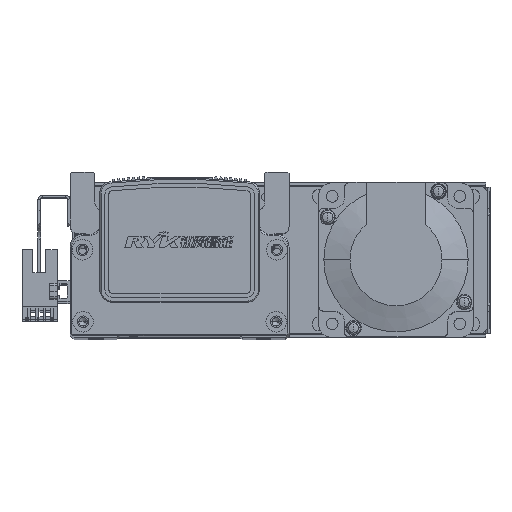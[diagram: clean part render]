
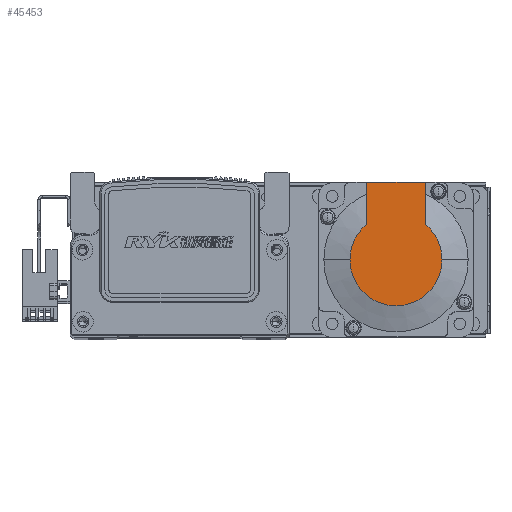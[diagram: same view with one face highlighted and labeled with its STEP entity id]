
A CAD part, top view. The second image highlights one B-rep face of the part: STEP entity #45453.
In plain terms, the highlighted planar face has unit normal (0, 0, 1) as drawn and (-1, 0, 0) by its records, which use the part's own axes.
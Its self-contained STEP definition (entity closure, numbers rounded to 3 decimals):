
#3661 = AXIS2_PLACEMENT_3D ( 'NONE', #10117, #10133, #10142 ) ;
#8740 = CARTESIAN_POINT ( 'NONE',  ( -99., 0., 0. ) ) ;
#8761 = DIRECTION ( 'NONE',  ( -1., 0., 0. ) ) ;
#8770 = DIRECTION ( 'NONE',  ( 0., 0., -1. ) ) ;
#8821 = DIRECTION ( 'NONE',  ( -1., 0., 0. ) ) ;
#8823 = CARTESIAN_POINT ( 'NONE',  ( -99., 0., 0. ) ) ;
#8842 = DIRECTION ( 'NONE',  ( 0., 0., -1. ) ) ;
#10114 = PLANE ( 'NONE',  #3661 ) ;
#10117 = CARTESIAN_POINT ( 'NONE',  ( -99., -8.941, 0. ) ) ;
#10133 = DIRECTION ( 'NONE',  ( -1., 0., 0. ) ) ;
#10142 = DIRECTION ( 'NONE',  ( 0., 0., 1. ) ) ;
#15394 = CARTESIAN_POINT ( 'NONE',  ( -99., 0., 17.881 ) ) ;
#15446 = CARTESIAN_POINT ( 'NONE',  ( -99., 0., -17.881 ) ) ;
#15474 = CARTESIAN_POINT ( 'NONE',  ( -99., 13.735, 11.45 ) ) ;
#15926 = CARTESIAN_POINT ( 'NONE',  ( -99., 13.735, -11.45 ) ) ;
#15932 = CARTESIAN_POINT ( 'NONE',  ( -99., 30., -11.45 ) ) ;
#15936 = CARTESIAN_POINT ( 'NONE',  ( -99., 30., 11.45 ) ) ;
#16924 = VECTOR ( 'NONE', #34416, 1000. ) ;
#16945 = LINE ( 'NONE', #34413, #16924 ) ;
#19937 = EDGE_CURVE ( 'NONE', #36568, #36535, #43021, .T. ) ;
#19997 = EDGE_CURVE ( 'NONE', #36535, #36593, #43127, .T. ) ;
#20829 = EDGE_CURVE ( 'NONE', #36809, #36568, #44354, .T. ) ;
#20923 = EDGE_CURVE ( 'NONE', #36812, #36593, #44536, .T. ) ;
#21026 = EDGE_CURVE ( 'NONE', #36822, #36812, #43520, .T. ) ;
#21061 = EDGE_CURVE ( 'NONE', #36822, #36809, #16945, .T. ) ;
#21609 = FACE_OUTER_BOUND ( 'NONE', #67536, .T. ) ;
#34413 = CARTESIAN_POINT ( 'NONE',  ( -99., -8.941, -11.45 ) ) ;
#34416 = DIRECTION ( 'NONE',  ( 0., -1., 0. ) ) ;
#36535 = VERTEX_POINT ( 'NONE', #15394 ) ;
#36568 = VERTEX_POINT ( 'NONE', #15446 ) ;
#36593 = VERTEX_POINT ( 'NONE', #15474 ) ;
#36809 = VERTEX_POINT ( 'NONE', #15926 ) ;
#36812 = VERTEX_POINT ( 'NONE', #15936 ) ;
#36822 = VERTEX_POINT ( 'NONE', #15932 ) ;
#41301 = CARTESIAN_POINT ( 'NONE',  ( -99., 0., 0. ) ) ;
#41304 = DIRECTION ( 'NONE',  ( -1., 0., 0. ) ) ;
#41305 = DIRECTION ( 'NONE',  ( 0., 0., -1. ) ) ;
#41455 = DIRECTION ( 'NONE',  ( 0., -1., 0. ) ) ;
#41475 = CARTESIAN_POINT ( 'NONE',  ( -99., 0., 11.45 ) ) ;
#41673 = DIRECTION ( 'NONE',  ( 0., 0., 1. ) ) ;
#41712 = CARTESIAN_POINT ( 'NONE',  ( -99., 30., 25. ) ) ;
#43021 = CIRCLE ( 'NONE', #43839, 17.881 ) ;
#43127 = CIRCLE ( 'NONE', #43742, 17.881 ) ;
#43520 = LINE ( 'NONE', #41712, #43585 ) ;
#43585 = VECTOR ( 'NONE', #41673, 1000. ) ;
#43742 = AXIS2_PLACEMENT_3D ( 'NONE', #8823, #8821, #8842 ) ;
#43839 = AXIS2_PLACEMENT_3D ( 'NONE', #8740, #8761, #8770 ) ;
#44147 = AXIS2_PLACEMENT_3D ( 'NONE', #41301, #41304, #41305 ) ;
#44354 = CIRCLE ( 'NONE', #44147, 17.881 ) ;
#44523 = VECTOR ( 'NONE', #41455, 1000. ) ;
#44536 = LINE ( 'NONE', #41475, #44523 ) ;
#45453 = ADVANCED_FACE ( 'NONE', ( #21609 ), #10114, .T. ) ;
#57967 = ORIENTED_EDGE ( 'NONE', *, *, #20829, .T. ) ;
#57969 = ORIENTED_EDGE ( 'NONE', *, *, #19997, .T. ) ;
#57982 = ORIENTED_EDGE ( 'NONE', *, *, #21061, .T. ) ;
#58026 = ORIENTED_EDGE ( 'NONE', *, *, #21026, .F. ) ;
#58033 = ORIENTED_EDGE ( 'NONE', *, *, #19937, .T. ) ;
#58044 = ORIENTED_EDGE ( 'NONE', *, *, #20923, .F. ) ;
#67536 = EDGE_LOOP ( 'NONE', ( #57982, #57967, #58033, #57969, #58044, #58026 ) ) ;
